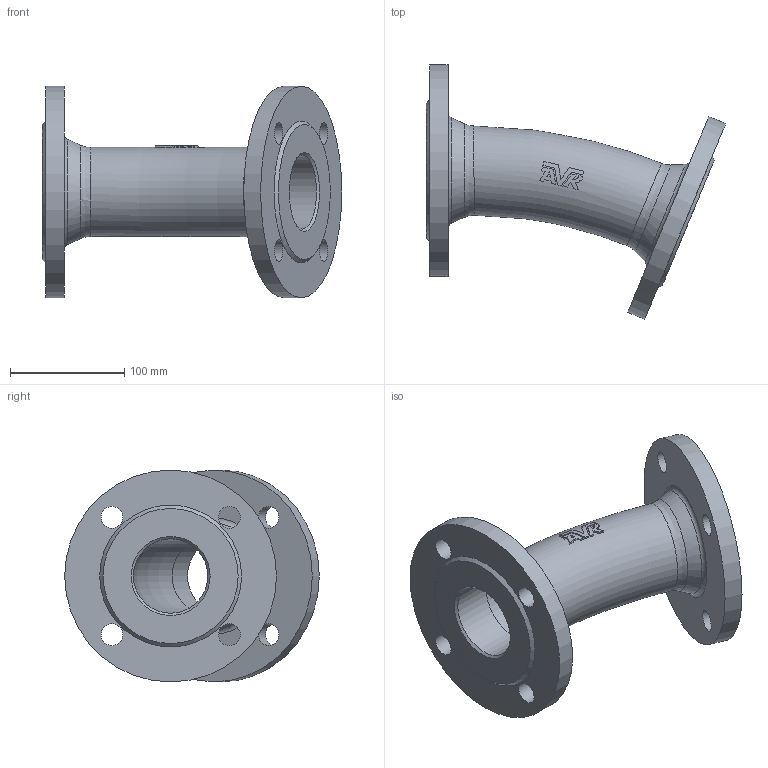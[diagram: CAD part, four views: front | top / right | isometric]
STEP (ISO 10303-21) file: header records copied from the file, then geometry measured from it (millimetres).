
FILE_DESCRIPTION (( 'STEP AP203' ), '1' );
FILE_NAME ('O_712_0210_DN65_1X_REV01.step', '2024-08-16T09:37:50', ( '' ), ( '' ), 'SwSTEP 2.0', 'SolidWorks 2022', '' );
FILE_SCHEMA (( 'CONFIG_CONTROL_DESIGN' ));
Length unit declared in the file: millimetre
Products named in the file (1): O_712_0210_DN65_1X_REV01
Bounding box: 261.57 x 222.35 x 185 mm (x, y, z)
Volume: 1097918.2 mm3; surface area: 207464.6 mm2
Topology: 1 solids, 1 shells, 71 faces, 188 edges, 127 vertices
Faces by surface type: plane 41, cylinder 14, torus 8, cone 6, bspline 2
Full cylindrical faces by diameter (mm): 19 x8, 65 x2, 185 x2
Entity records: 3486 total; most frequent: CARTESIAN_POINT 1929, ORIENTED_EDGE 298, DIRECTION 245, EDGE_CURVE 149, EDGE_LOOP 121, VERTEX_POINT 112, AXIS2_PLACEMENT_3D 104, FACE_OUTER_BOUND 89
